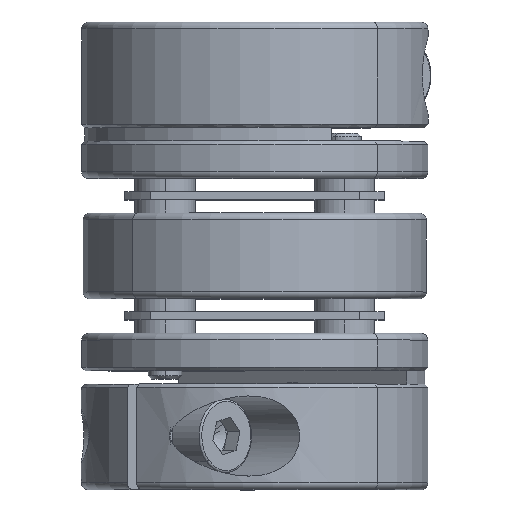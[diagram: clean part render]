
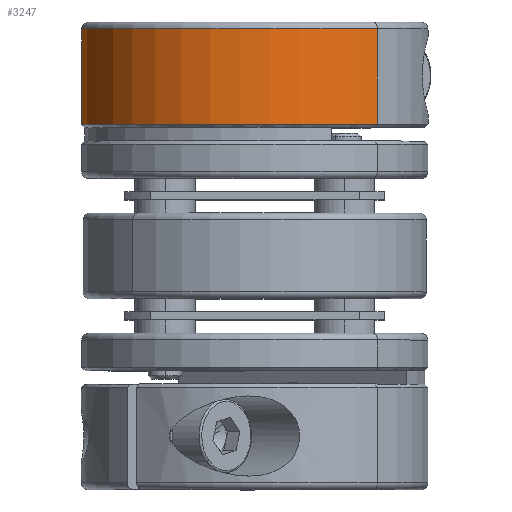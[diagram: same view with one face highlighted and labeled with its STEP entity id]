
A CAD part, top view. The second image highlights one B-rep face of the part: STEP entity #3247.
In plain terms, the highlighted cylindrical face has radius 13 mm (diameter 26 mm), a partial arc.
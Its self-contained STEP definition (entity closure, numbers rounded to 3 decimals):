
#99 = ORIENTED_EDGE ( 'NONE', *, *, #5844, .T. ) ;
#337 = EDGE_LOOP ( 'NONE', ( #99, #4145, #3508, #2061 ) ) ;
#353 = CYLINDRICAL_SURFACE ( 'NONE', #4243, 13. ) ;
#404 = DIRECTION ( 'NONE',  ( 0., 0., -1. ) ) ;
#884 = LINE ( 'NONE', #3542, #1926 ) ;
#981 = CARTESIAN_POINT ( 'NONE',  ( 13., 0., 7.9 ) ) ;
#1019 = LINE ( 'NONE', #981, #2722 ) ;
#1128 = CIRCLE ( 'NONE', #1349, 13. ) ;
#1329 = CARTESIAN_POINT ( 'NONE',  ( 13., 0., 7.65 ) ) ;
#1349 = AXIS2_PLACEMENT_3D ( 'NONE', #6780, #2230, #2192 ) ;
#1891 = EDGE_CURVE ( 'NONE', #4460, #5380, #884, .T. ) ;
#1926 = VECTOR ( 'NONE', #6588, 1000. ) ;
#2061 = ORIENTED_EDGE ( 'NONE', *, *, #1891, .F. ) ;
#2192 = DIRECTION ( 'NONE',  ( 1., 0., 0. ) ) ;
#2230 = DIRECTION ( 'NONE',  ( 0., 0., -1. ) ) ;
#2722 = VECTOR ( 'NONE', #404, 1000. ) ;
#2838 = CARTESIAN_POINT ( 'NONE',  ( 0., 0., 0.5 ) ) ;
#3247 = ADVANCED_FACE ( 'NONE', ( #3998 ), #353, .T. ) ;
#3508 = ORIENTED_EDGE ( 'NONE', *, *, #4337, .T. ) ;
#3542 = CARTESIAN_POINT ( 'NONE',  ( -13., 0., 7.9 ) ) ;
#3560 = CARTESIAN_POINT ( 'NONE',  ( 0., 0., 7.9 ) ) ;
#3602 = AXIS2_PLACEMENT_3D ( 'NONE', #2838, #6432, #3794 ) ;
#3636 = EDGE_CURVE ( 'NONE', #6497, #6784, #1019, .T. ) ;
#3794 = DIRECTION ( 'NONE',  ( 1., 0., 0. ) ) ;
#3998 = FACE_OUTER_BOUND ( 'NONE', #337, .T. ) ;
#4145 = ORIENTED_EDGE ( 'NONE', *, *, #3636, .T. ) ;
#4200 = CARTESIAN_POINT ( 'NONE',  ( -13., 0., 0.5 ) ) ;
#4243 = AXIS2_PLACEMENT_3D ( 'NONE', #3560, #6115, #4588 ) ;
#4337 = EDGE_CURVE ( 'NONE', #6784, #5380, #5491, .T. ) ;
#4460 = VERTEX_POINT ( 'NONE', #6779 ) ;
#4588 = DIRECTION ( 'NONE',  ( -1., 0., 0. ) ) ;
#5380 = VERTEX_POINT ( 'NONE', #4200 ) ;
#5491 = CIRCLE ( 'NONE', #3602, 13. ) ;
#5844 = EDGE_CURVE ( 'NONE', #4460, #6497, #1128, .T. ) ;
#6115 = DIRECTION ( 'NONE',  ( 0., 0., -1. ) ) ;
#6227 = CARTESIAN_POINT ( 'NONE',  ( 13., 0., 0.5 ) ) ;
#6432 = DIRECTION ( 'NONE',  ( 0., 0., 1. ) ) ;
#6497 = VERTEX_POINT ( 'NONE', #1329 ) ;
#6588 = DIRECTION ( 'NONE',  ( 0., 0., -1. ) ) ;
#6779 = CARTESIAN_POINT ( 'NONE',  ( -13., 0., 7.65 ) ) ;
#6780 = CARTESIAN_POINT ( 'NONE',  ( 0., 0., 7.65 ) ) ;
#6784 = VERTEX_POINT ( 'NONE', #6227 ) ;
